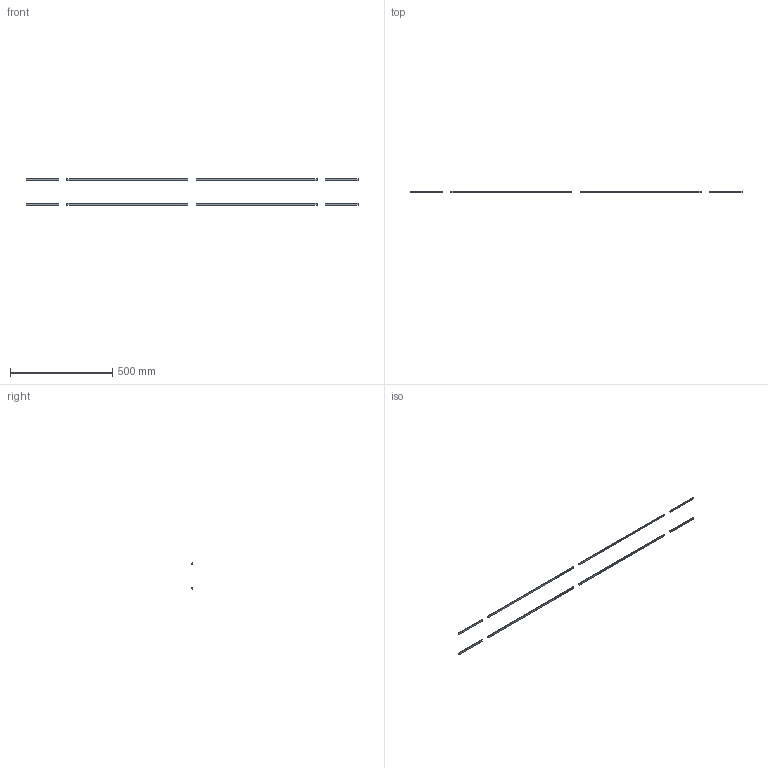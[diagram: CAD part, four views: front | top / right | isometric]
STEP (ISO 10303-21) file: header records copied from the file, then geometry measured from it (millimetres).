
FILE_DESCRIPTION(/* description */ (''),/* implementation_level */ '2;1');
FILE_NAME(/* name */ 'FR20A5~1',/* time_stamp */ '2014-02-14T19:32:30+01:00',/* author */ (''),/* organization */ (''),/* preprocessor_version */ 'ST-DEVELOPER v14',/* originating_system */ '',/* authorisation */ '');
FILE_SCHEMA (('AUTOMOTIVE_DESIGN'));
Length unit declared in the file: millimetre
Products named in the file (1): Document
Bounding box: 1620 x 6 x 130 mm (x, y, z)
Volume: 86206 mm3; surface area: 84359.4 mm2
Topology: 8 solids, 8 shells, 88 faces, 216 edges, 144 vertices
Faces by surface type: plane 56, bspline 32
Entity records: 4841 total; most frequent: CARTESIAN_POINT 1906, B_SPLINE_CURVE_WITH_KNOTS 520, ORIENTED_EDGE 432, PCURVE 432, DEFINITIONAL_REPRESENTATION 432, SURFACE_CURVE 216, EDGE_CURVE 216, VERTEX_POINT 144
